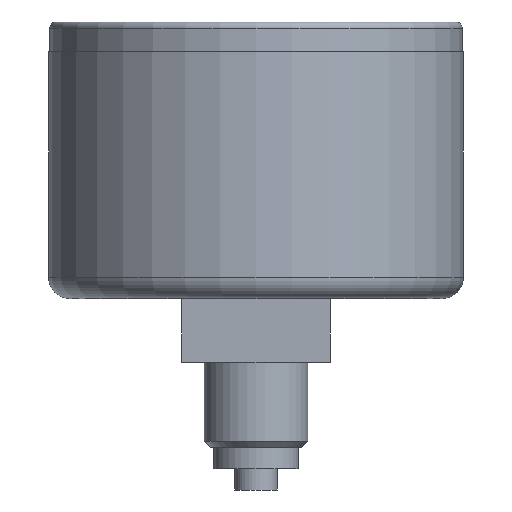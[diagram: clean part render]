
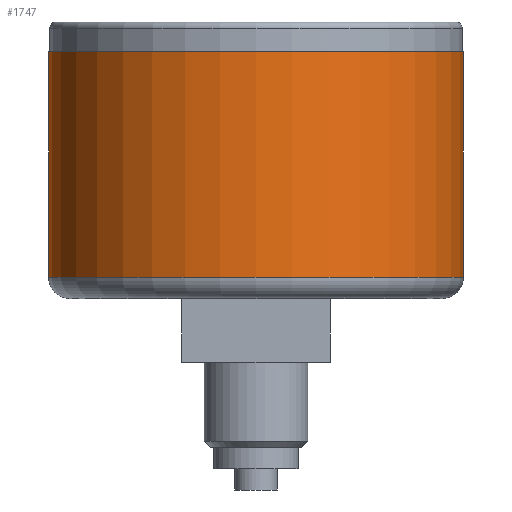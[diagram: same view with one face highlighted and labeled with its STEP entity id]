
A CAD part, front view. The second image highlights one B-rep face of the part: STEP entity #1747.
In plain terms, the highlighted cylindrical face has radius 19.5 mm (diameter 39 mm), a full revolution.
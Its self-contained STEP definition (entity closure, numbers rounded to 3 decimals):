
#39=CYLINDRICAL_SURFACE('',#1918,19.5);
#141=FACE_OUTER_BOUND('',#245,.T.);
#245=EDGE_LOOP('',(#1536,#1537,#1538,#1539,#1540,#1541));
#306=CIRCLE('',#1913,19.5);
#310=CIRCLE('',#1917,19.5);
#311=CIRCLE('',#1919,19.5);
#312=CIRCLE('',#1920,19.5);
#494=LINE('',#2913,#672);
#672=VECTOR('',#2405,19.5);
#829=VERTEX_POINT('',#2899);
#830=VERTEX_POINT('',#2900);
#833=VERTEX_POINT('',#2909);
#834=VERTEX_POINT('',#2910);
#1068=EDGE_CURVE('',#829,#830,#306,.T.);
#1072=EDGE_CURVE('',#830,#829,#310,.T.);
#1073=EDGE_CURVE('',#833,#834,#311,.T.);
#1074=EDGE_CURVE('',#834,#833,#312,.T.);
#1075=EDGE_CURVE('',#834,#830,#494,.T.);
#1536=ORIENTED_EDGE('',*,*,#1073,.F.);
#1537=ORIENTED_EDGE('',*,*,#1074,.F.);
#1538=ORIENTED_EDGE('',*,*,#1075,.T.);
#1539=ORIENTED_EDGE('',*,*,#1068,.F.);
#1540=ORIENTED_EDGE('',*,*,#1072,.F.);
#1541=ORIENTED_EDGE('',*,*,#1075,.F.);
#1747=ADVANCED_FACE('',(#141),#39,.T.);
#1913=AXIS2_PLACEMENT_3D('',#2901,#2389,#2390);
#1917=AXIS2_PLACEMENT_3D('',#2907,#2397,#2398);
#1918=AXIS2_PLACEMENT_3D('',#2908,#2399,#2400);
#1919=AXIS2_PLACEMENT_3D('',#2911,#2401,#2402);
#1920=AXIS2_PLACEMENT_3D('',#2912,#2403,#2404);
#2389=DIRECTION('center_axis',(0.,0.,-1.));
#2390=DIRECTION('ref_axis',(-1.,0.,0.));
#2397=DIRECTION('center_axis',(0.,0.,-1.));
#2398=DIRECTION('ref_axis',(-1.,0.,0.));
#2399=DIRECTION('center_axis',(0.,0.,1.));
#2400=DIRECTION('ref_axis',(1.,0.,0.));
#2401=DIRECTION('center_axis',(0.,0.,1.));
#2402=DIRECTION('ref_axis',(1.,0.,0.));
#2403=DIRECTION('center_axis',(0.,0.,1.));
#2404=DIRECTION('ref_axis',(1.,0.,0.));
#2405=DIRECTION('',(0.,0.,-1.));
#2899=CARTESIAN_POINT('',(19.5,0.,2.));
#2900=CARTESIAN_POINT('',(-19.5,0.,2.));
#2901=CARTESIAN_POINT('Origin',(0.,0.,2.));
#2907=CARTESIAN_POINT('Origin',(0.,0.,2.));
#2908=CARTESIAN_POINT('Origin',(0.,0.,0.));
#2909=CARTESIAN_POINT('',(19.5,0.,23.2));
#2910=CARTESIAN_POINT('',(-19.5,0.,23.2));
#2911=CARTESIAN_POINT('Origin',(0.,0.,23.2));
#2912=CARTESIAN_POINT('Origin',(0.,0.,23.2));
#2913=CARTESIAN_POINT('',(-19.5,0.,0.));
